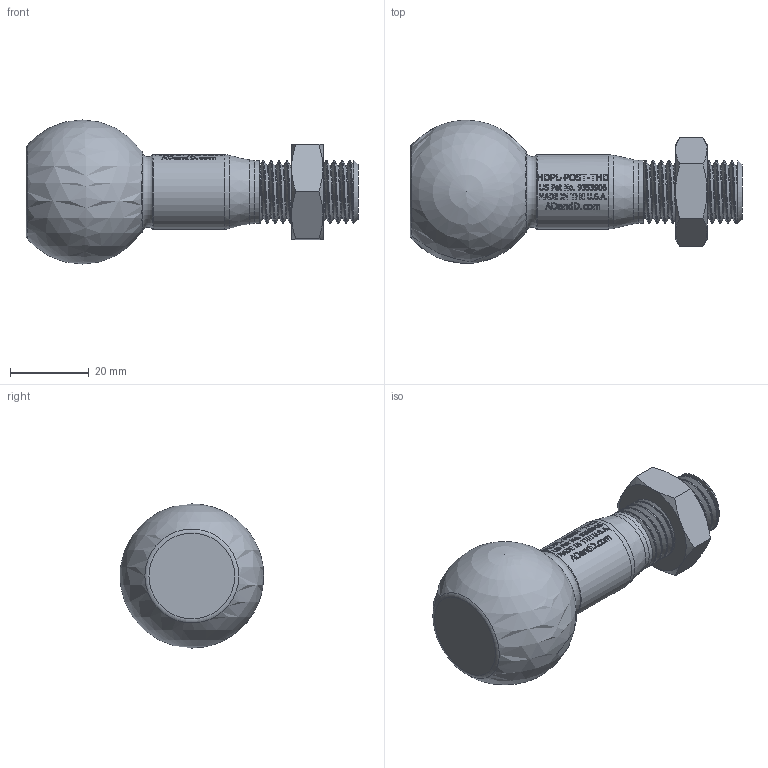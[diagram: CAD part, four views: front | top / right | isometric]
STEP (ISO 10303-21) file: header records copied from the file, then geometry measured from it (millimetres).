
FILE_DESCRIPTION(/* description */ (''),/* implementation_level */ '2;1');
FILE_NAME(/* name */ 'C:\Users\owner\Desktop\HDPL-POSTS_3D_stp\HDPL-SPOST-THD.stp',/* time_stamp */ '2017-10-02T09:20:26-04:00',/* author */ ('owner'),/* organization */ (''),/* preprocessor_version */ 'ST-DEVELOPER v16.5',/* originating_system */ 'Autodesk Inventor 2017',/* authorisation */ '');
FILE_SCHEMA (('CONFIG_CONTROL_DESIGN'));
Length unit declared in the file: inch
Products named in the file (3): HDPL-SPOST-THD; 60061; #90710
Assembly tree (2 placements, depth 2):
  HDPL-SPOST-THD
    60061
    #90710
Bounding box: 84.41 x 36.41 x 36.65 mm (x, y, z)
Volume: 39186.2 mm3; surface area: 11742 mm2
Topology: 3 solids, 3 shells, 840 faces, 2257 edges, 1498 vertices
Faces by surface type: bspline 390, plane 347, cylinder 81, cone 16, torus 5, sphere 1
Full cylindrical faces by diameter (mm): 13.392 x2, 16.002 x1, 18.923 x1
Entity records: 42047 total; most frequent: CARTESIAN_POINT 23296, ORIENTED_EDGE 4482, DIRECTION 2734, EDGE_CURVE 2241, VERTEX_POINT 1494, LINE 1066, VECTOR 1066, EDGE_LOOP 931
